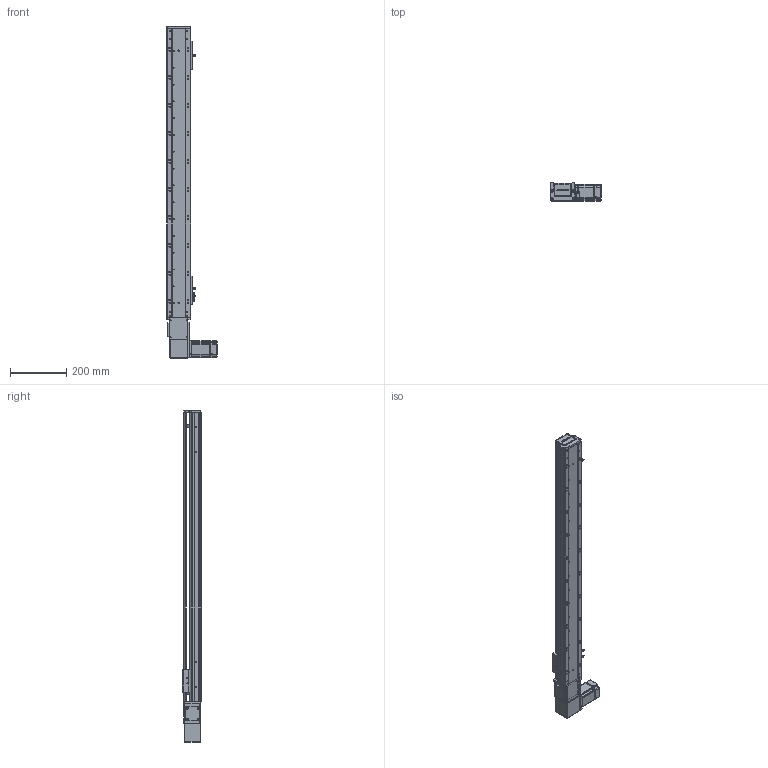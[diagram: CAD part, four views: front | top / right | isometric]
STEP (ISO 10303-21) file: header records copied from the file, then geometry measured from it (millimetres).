
FILE_DESCRIPTION (( 'STEP AP203' ), '1' );
FILE_NAME ('RY80-T-300-RK.SLDASM_850.step', '2021-03-01T02:07:06', ( '盈信电脑' ), ( '东莞市道滘镇水果街19号' ), 'SwSTEP 2.0', 'SolidWorks 2012', '' );
FILE_SCHEMA (( 'CONFIG_CONTROL_DESIGN' ));
Length unit declared in the file: millimetre
Products named in the file (20): RY80-T肮祭謫臏賑輸; RY80-T-300-RK倰第菁釱_850; RY80-T-300-RK倰第奻裔啣_850; RY80-T-300-RK.SLDASM_850; RY100-T粣創揤踡裔; 滅袉蝶18-10; RY80-T肮祭謫俋欶; RY80-T-M4蹟翐; RY80-T粣創揤踡輸; RY80-T肮祭湍揤輸2; RY80-T翋肮祭謫裔啣; RY80-T肮祭湍揤輸1; 侂狟200W萇儂; RY80-T-翋肮祭謫釱; RY80-T萇儂假蚾啣; 覜茼ん672; 672嫖萇羲壽假蚾釱; RY80俋离覜茼え; 1; RY80-T綴裔啣
Assembly tree (25 placements, depth 3):
  RY80-T-300-RK.SLDASM_850
    RY80-T-300-RK倰第菁釱_850
    RY80-T肮祭謫臏賑輸
    RY80-T-300-RK倰第奻裔啣_850
    RY80-T綴裔啣
    672嫖萇羲壽假蚾釱  x2
    覜茼ん672  x3
    RY80俋离覜茼え
    侂狟200W萇儂
      1
    RY80-T-翋肮祭謫釱
    RY80-T萇儂假蚾啣
    RY80-T肮祭湍揤輸1
    RY80-T肮祭湍揤輸2
    RY80-T粣創揤踡輸
    RY80-T-M4蹟翐  x2
    RY80-T翋肮祭謫裔啣  x2
    RY80-T肮祭謫俋欶
    滅袉蝶18-10  x2
    RY100-T粣創揤踡裔
Bounding box: 180 x 65 x 1185 mm (x, y, z)
Volume: 1993531.9 mm3; surface area: 829701.4 mm2
Topology: 24 solids, 24 shells, 2595 faces, 7180 edges, 4667 vertices
Faces by surface type: plane 1356, cylinder 1031, cone 152, bspline 56
Entity records: 82934 total; most frequent: CARTESIAN_POINT 20879, ORIENTED_EDGE 12804, DIRECTION 11910, EDGE_CURVE 6402, VERTEX_POINT 4208, AXIS2_PLACEMENT_3D 4039, VECTOR 3832, LINE 3832
